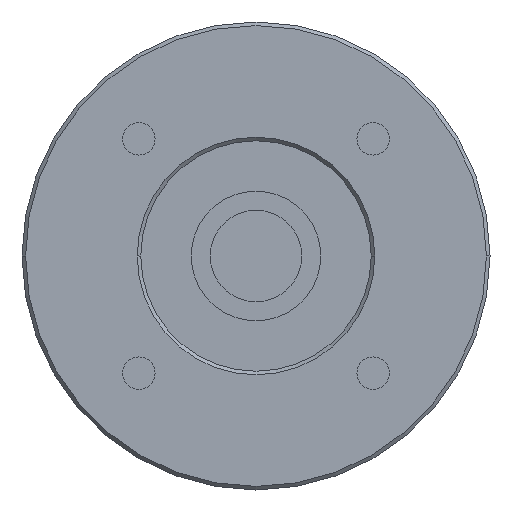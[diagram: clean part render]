
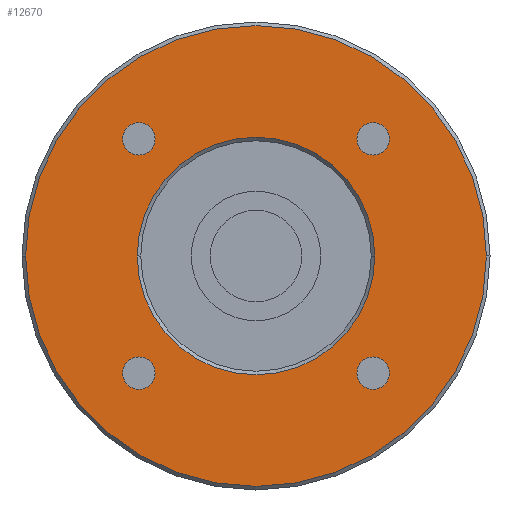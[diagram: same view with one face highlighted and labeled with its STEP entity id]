
A CAD part, left-side view. The second image highlights one B-rep face of the part: STEP entity #12670.
In plain terms, the highlighted planar face has unit normal (-1, 0, 0) as drawn and (0, 0, -1) by its records, which use the part's own axes.
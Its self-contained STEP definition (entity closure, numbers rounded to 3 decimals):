
#11350=CARTESIAN_POINT('',(16.263,-14.013,-35.));
#11360=VERTEX_POINT('',#11350);
#11390=CARTESIAN_POINT('',(16.263,-16.263,-35.));
#11400=DIRECTION('',(0.,0.,-1.));
#11410=DIRECTION('',(1.,0.,0.));
#11420=AXIS2_PLACEMENT_3D('',#11390,#11400,#11410);
#11430=CIRCLE('',#11420,2.25);
#11440=CARTESIAN_POINT('',(16.263,-18.513,-35.));
#11450=VERTEX_POINT('',#11440);
#11460=EDGE_CURVE('',#11450,#11360,#11430,.T.);
#11580=CARTESIAN_POINT('',(0.,0.,
-35.));
#11590=DIRECTION('',(0.,0.,-1.));
#11600=DIRECTION('',(0.,-1.,0.));
#11610=AXIS2_PLACEMENT_3D('',#11580,#11590,#11600);
#11620=PLANE('',#11610);
#11630=CARTESIAN_POINT('',(-16.263,-16.263,-35.));
#11640=DIRECTION('',(0.,0.,-1.));
#11650=DIRECTION('',(1.,0.,0.));
#11660=AXIS2_PLACEMENT_3D('',#11630,#11640,#11650);
#11670=CIRCLE('',#11660,2.25);
#11680=CARTESIAN_POINT('',(-14.013,-16.263,-35.));
#11690=VERTEX_POINT('',#11680);
#11700=CARTESIAN_POINT('',(-16.263,-18.513,-35.));
#11710=VERTEX_POINT('',#11700);
#11720=EDGE_CURVE('',#11690,#11710,#11670,.T.);
#11730=ORIENTED_EDGE('',*,*,#11720,.F.);
#11740=CARTESIAN_POINT('',(-16.263,-14.013,-35.));
#11750=VERTEX_POINT('',#11740);
#11760=EDGE_CURVE('',#11710,#11750,#11670,.T.);
#11770=ORIENTED_EDGE('',*,*,#11760,.F.);
#11780=EDGE_CURVE('',#11750,#11690,#11670,.T.);
#11790=ORIENTED_EDGE('',*,*,#11780,.F.);
#11800=EDGE_LOOP('',(#11790,#11770,#11730));
#11810=FACE_BOUND('',#11800,.T.);
#11820=CARTESIAN_POINT('',(-16.263,16.263,-35.));
#11830=DIRECTION('',(0.,0.,-1.));
#11840=DIRECTION('',(1.,0.,0.));
#11850=AXIS2_PLACEMENT_3D('',#11820,#11830,#11840);
#11860=CIRCLE('',#11850,2.25);
#11870=CARTESIAN_POINT('',(-14.013,16.263,-35.));
#11880=VERTEX_POINT('',#11870);
#11890=CARTESIAN_POINT('',(-16.263,14.013,-35.));
#11900=VERTEX_POINT('',#11890);
#11910=EDGE_CURVE('',#11880,#11900,#11860,.T.);
#11920=ORIENTED_EDGE('',*,*,#11910,.F.);
#11930=CARTESIAN_POINT('',(-16.263,18.513,-35.));
#11940=VERTEX_POINT('',#11930);
#11950=EDGE_CURVE('',#11900,#11940,#11860,.T.);
#11960=ORIENTED_EDGE('',*,*,#11950,.F.);
#11970=EDGE_CURVE('',#11940,#11880,#11860,.T.);
#11980=ORIENTED_EDGE('',*,*,#11970,.F.);
#11990=EDGE_LOOP('',(#11980,#11960,#11920));
#12000=FACE_BOUND('',#11990,.T.);
#12010=CARTESIAN_POINT('',(16.263,16.263,-35.));
#12020=DIRECTION('',(0.,0.,-1.));
#12030=DIRECTION('',(1.,0.,0.));
#12040=AXIS2_PLACEMENT_3D('',#12010,#12020,#12030);
#12050=CIRCLE('',#12040,2.25);
#12060=CARTESIAN_POINT('',(18.513,16.263,-35.));
#12070=VERTEX_POINT('',#12060);
#12080=CARTESIAN_POINT('',(16.263,14.013,-35.));
#12090=VERTEX_POINT('',#12080);
#12100=EDGE_CURVE('',#12070,#12090,#12050,.T.);
#12110=ORIENTED_EDGE('',*,*,#12100,.F.);
#12120=CARTESIAN_POINT('',(16.263,18.513,-35.));
#12130=VERTEX_POINT('',#12120);
#12140=EDGE_CURVE('',#12090,#12130,#12050,.T.);
#12150=ORIENTED_EDGE('',*,*,#12140,.F.);
#12160=EDGE_CURVE('',#12130,#12070,#12050,.T.);
#12170=ORIENTED_EDGE('',*,*,#12160,.F.);
#12180=EDGE_LOOP('',(#12170,#12150,#12110));
#12190=FACE_BOUND('',#12180,.T.);
#12200=CARTESIAN_POINT('',(18.513,-16.263,-35.));
#12210=VERTEX_POINT('',#12200);
#12220=EDGE_CURVE('',#12210,#11450,#11430,.T.);
#12230=ORIENTED_EDGE('',*,*,#12220,.F.);
#12240=ORIENTED_EDGE('',*,*,#11460,.F.);
#12250=EDGE_CURVE('',#11360,#12210,#11430,.T.);
#12260=ORIENTED_EDGE('',*,*,#12250,.F.);
#12270=EDGE_LOOP('',(#12260,#12240,#12230));
#12280=FACE_BOUND('',#12270,.T.);
#12290=CARTESIAN_POINT('',(0.,0.,
-35.));
#12300=DIRECTION('',(0.,0.,-1.));
#12310=DIRECTION('',(0.,-1.,0.));
#12320=AXIS2_PLACEMENT_3D('',#12290,#12300,#12310);
#12330=CIRCLE('',#12320,32.);
#12340=CARTESIAN_POINT('',(-32.,0.,-35.));
#12350=VERTEX_POINT('',#12340);
#12360=CARTESIAN_POINT('',(32.,0.,-35.));
#12370=VERTEX_POINT('',#12360);
#12380=EDGE_CURVE('',#12350,#12370,#12330,.T.);
#12390=ORIENTED_EDGE('',*,*,#12380,.T.);
#12400=CARTESIAN_POINT('',(0.,-32.,-35.));
#12410=VERTEX_POINT('',#12400);
#12420=EDGE_CURVE('',#12410,#12350,#12330,.T.);
#12430=ORIENTED_EDGE('',*,*,#12420,.T.);
#12440=EDGE_CURVE('',#12370,#12410,#12330,.T.);
#12450=ORIENTED_EDGE('',*,*,#12440,.T.);
#12460=EDGE_LOOP('',(#12450,#12430,#12390));
#12470=FACE_OUTER_BOUND('',#12460,.T.);
#12480=CARTESIAN_POINT('',(0.,0.,
-35.));
#12490=DIRECTION('',(0.,0.,-1.));
#12500=DIRECTION('',(0.,-1.,0.));
#12510=AXIS2_PLACEMENT_3D('',#12480,#12490,#12500);
#12520=CIRCLE('',#12510,16.5);
#12530=CARTESIAN_POINT('',(0.,-16.5,-35.));
#12540=VERTEX_POINT('',#12530);
#12550=CARTESIAN_POINT('',(-16.5,0.,-35.));
#12560=VERTEX_POINT('',#12550);
#12570=EDGE_CURVE('',#12540,#12560,#12520,.T.);
#12580=ORIENTED_EDGE('',*,*,#12570,.F.);
#12590=CARTESIAN_POINT('',(16.5,0.,-35.));
#12600=VERTEX_POINT('',#12590);
#12610=EDGE_CURVE('',#12560,#12600,#12520,.T.);
#12620=ORIENTED_EDGE('',*,*,#12610,.F.);
#12630=EDGE_CURVE('',#12600,#12540,#12520,.T.);
#12640=ORIENTED_EDGE('',*,*,#12630,.F.);
#12650=EDGE_LOOP('',(#12640,#12620,#12580));
#12660=FACE_BOUND('',#12650,.T.);
#12670=ADVANCED_FACE('',(#11810,#12000,#12190,#12280,#12470,#12660),
#11620,.T.);
